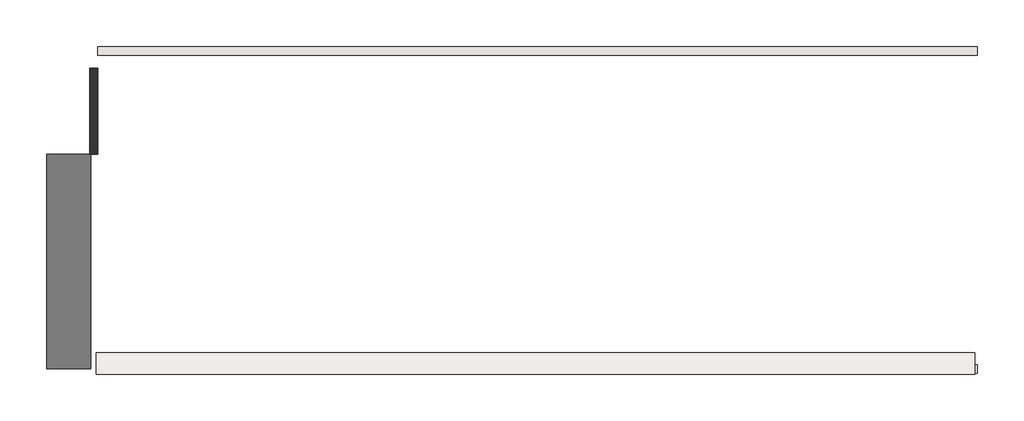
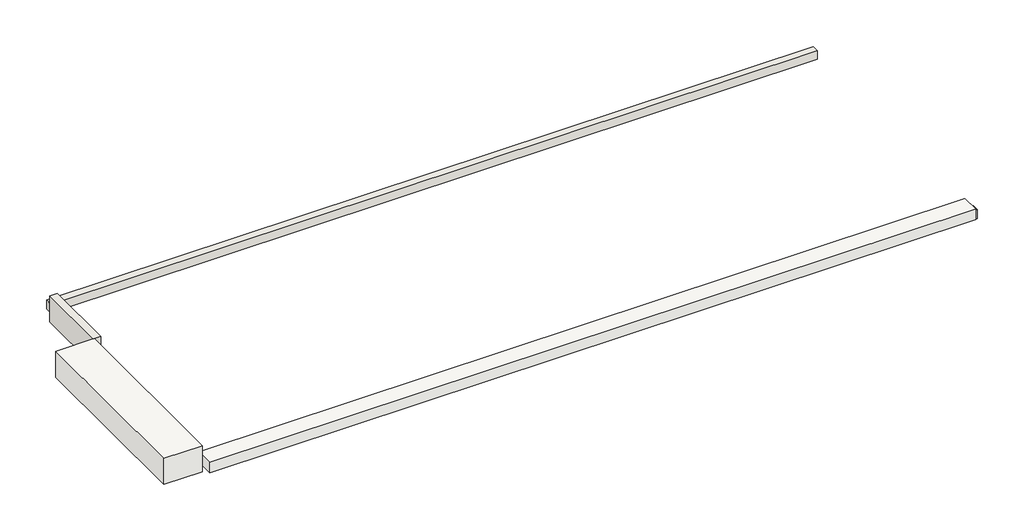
# One storey: 3 walls, 1 roof, 1 slab.
"""IFC4 building model written with IfcOpenShell, lengths in millimetres."""

from ifc_helpers import new_model, si_unit, frame, origin, place, context, project, spatial, polyline, outline, extrude, faceted_brep, element, save

model = new_model("IFC4")

# Units and contexts
model_context = context("Model", 3, world=origin())
ifc_project = project(units=[si_unit("LENGTHUNIT", "METRE", prefix="MILLI")], contexts=[model_context])

# Site, building, storey
site = spatial("IfcSite", under=ifc_project)
building = spatial("IfcBuilding", under=site)
storey = spatial("IfcBuildingStorey", under=building, Name="25 Voladis bottom", Elevation=3000.0)

# Roof
placement = place(None, origin())
element("IfcRoof", 1, ObjectType="Cubierta no ventilada - Hormigón 1500", at=placement, inside=storey, context=model_context, shape_type="SweptSolid", body=[
    extrude(outline(polyline([(-21360.8378324, 10780.3090419), (-19273.7679708, 10780.3090419), (-19273.7679708, 634.7100157), (-21360.8378324, 634.7100157), (-21360.8378324, 10780.3090419)])), frame((0.0, 0.0, 3000.0), z_axis=(0.0, 0.0, 1.0), x_axis=(1.0, 0.0, 0.0)), (0.0, 0.0, 1.0), 1500.0),
])

# Slab
element("IfcSlab", 2, ObjectType="Hormigón in situ 600mm", at=placement, inside=storey, context=model_context, shape_type="SweptSolid", body=[
    extrude(outline(polyline([(22556.0624514, 1375.0927581), (22556.0624514, 370.0078619), (-19015.0335842, 370.0078619), (-19015.0335842, 1375.0927581), (22556.0624514, 1375.0927581)])), frame((0.0, 0.0, 3000.0), z_axis=(0.0, 0.0, 1.0), x_axis=(1.0, 0.0, 0.0)), (0.0, 0.0, 1.0), 600.0),
])

# Walls
element("IfcWall", 3, ObjectType="Retención - Hormigón 400 mm", at=placement, inside=storey, context=model_context, shape_type="SweptSolid", body=[
    extrude(outline(polyline([(-19327.8798655, 10774.7100157), (-19327.8798655, 14854.7100157), (-18927.8798655, 14854.7100157), (-18927.8798655, 10774.7100157), (-19327.8798655, 10774.7100157)])), frame((0.0, 0.0, 3000.0), z_axis=(0.0, 0.0, 1.0), x_axis=(1.0, 0.0, 0.0)), (0.0, 0.0, 1.0), 1500.0),
])
element("IfcWall", 4, ObjectType="Retención - Hormigón 400 mm", at=placement, inside=storey, context=model_context, shape_type="Brep", body=[
    faceted_brep([(22679.8913947, 412.2136056, 3500.0), (-18886.0499444, 412.2136056, 3500.0), (-18886.0499444, 412.2136056, 3000.0), (17881.0753154, 412.2136056, 3000.0), (17881.0753154, 412.2136056, 3004.7269681), (19181.0753154, 412.2136056, 3004.7269681), (19181.0753154, 412.2136056, 3000.0), (21352.5869044, 412.2136056, 3000.0), (21352.5869044, 412.2136056, 3019.7863215), (22652.5869044, 412.2136056, 3019.7863215), (22652.5869044, 412.2136056, 3000.0), (22679.8913947, 412.2136056, 3000.0), (-18886.0499444, 812.2136056, 3500.0), (22679.8913947, 812.2136056, 3500.0), (22679.8913947, 812.2136056, 3000.0), (22652.5869044, 812.2136056, 3000.0), (22652.5869044, 812.2136056, 3019.7863215), (21352.5869044, 812.2136056, 3019.7863215), (21352.5869044, 812.2136056, 3000.0), (19181.0753154, 812.2136056, 3000.0), (19181.0753154, 812.2136056, 3004.7269681), (17881.0753154, 812.2136056, 3004.7269681), (17881.0753154, 812.2136056, 3000.0), (-18886.0499444, 812.2136056, 3000.0), (22679.8913947, 554.7100157, 3000.0)], [[[0, 1, 2, 3, 4, 5, 6, 7, 8, 9, 10, 11]], [[12, 13, 14, 15, 16, 17, 18, 19, 20, 21, 22, 23]], [[2, 23, 22, 3]], [[14, 24, 11, 10, 15]], [[6, 19, 18, 7]], [[1, 0, 13, 12]], [[2, 1, 12, 23]], [[0, 11, 24, 14, 13]], [[21, 4, 3, 22]], [[4, 21, 20, 5]], [[5, 20, 19, 6]], [[17, 8, 7, 18]], [[8, 17, 16, 9]], [[9, 16, 15, 10]]]),
])
element("IfcWall", 5, ObjectType="Retención - Hormigón 400 mm", at=placement, inside=storey, context=model_context, shape_type="SweptSolid", body=[
    extrude(outline(polyline([(22679.8913947, 15471.6063764), (-18927.8798655, 15471.6063764), (-18927.8798655, 15871.6063764), (22679.8913947, 15871.6063764), (22679.8913947, 15471.6063764)])), frame((0.0, 0.0, 3000.0), z_axis=(0.0, 0.0, 1.0), x_axis=(1.0, 0.0, 0.0)), (0.0, 0.0, 1.0), 500.0),
])

save(model, "model.ifc")
